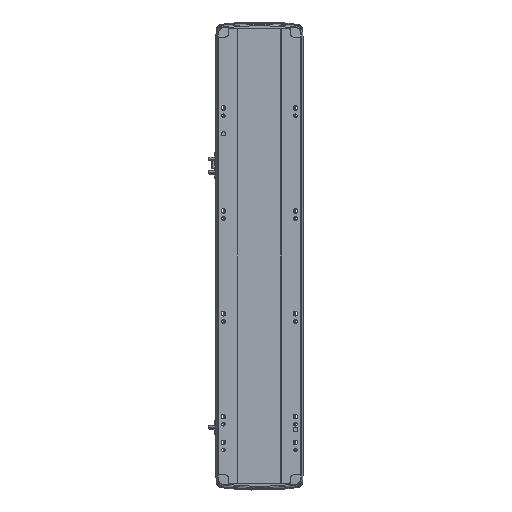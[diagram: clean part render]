
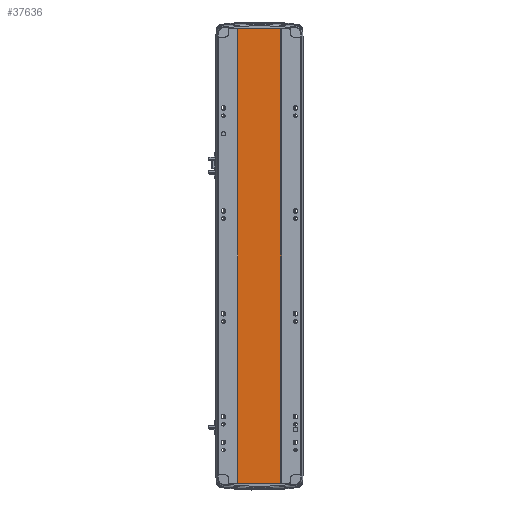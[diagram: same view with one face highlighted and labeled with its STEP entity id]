
A CAD part, front view. The second image highlights one B-rep face of the part: STEP entity #37636.
In plain terms, the highlighted planar face has unit normal (0, -1, 0).
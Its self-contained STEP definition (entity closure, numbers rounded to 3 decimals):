
#93 = VECTOR ( 'NONE', #1583, 1000. ) ;
#1084 = LINE ( 'NONE', #32916, #93 ) ;
#1583 = DIRECTION ( 'NONE',  ( 1., 0., 0. ) ) ;
#2703 = VERTEX_POINT ( 'NONE', #5319 ) ;
#3192 = CARTESIAN_POINT ( 'NONE',  ( 0., 0.999, 884.5 ) ) ;
#3882 = LINE ( 'NONE', #23552, #38258 ) ;
#5319 = CARTESIAN_POINT ( 'NONE',  ( 41.793, 0.998, 884.5 ) ) ;
#6553 = EDGE_CURVE ( 'NONE', #27520, #2703, #16117, .T. ) ;
#6586 = PLANE ( 'NONE',  #13399 ) ;
#6716 = DIRECTION ( 'NONE',  ( 0., 1., 0. ) ) ;
#11423 = FACE_OUTER_BOUND ( 'NONE', #14752, .T. ) ;
#11874 = LINE ( 'NONE', #23181, #32065 ) ;
#12629 = EDGE_CURVE ( 'NONE', #39971, #30636, #1084, .T. ) ;
#12779 = EDGE_CURVE ( 'NONE', #2703, #30636, #11874, .T. ) ;
#12914 = ORIENTED_EDGE ( 'NONE', *, *, #12629, .T. ) ;
#13399 = AXIS2_PLACEMENT_3D ( 'NONE', #3192, #6716, #34368 ) ;
#14619 = VECTOR ( 'NONE', #40153, 1000. ) ;
#14647 = EDGE_CURVE ( 'NONE', #27520, #39971, #3882, .T. ) ;
#14752 = EDGE_LOOP ( 'NONE', ( #12914, #28816, #15232, #21935 ) ) ;
#15232 = ORIENTED_EDGE ( 'NONE', *, *, #6553, .F. ) ;
#16117 = LINE ( 'NONE', #39502, #14619 ) ;
#21935 = ORIENTED_EDGE ( 'NONE', *, *, #14647, .T. ) ;
#23181 = CARTESIAN_POINT ( 'NONE',  ( 41.793, 0.998, 884.5 ) ) ;
#23354 = CARTESIAN_POINT ( 'NONE',  ( -41.791, 1., 884.5 ) ) ;
#23552 = CARTESIAN_POINT ( 'NONE',  ( -41.791, 1., 884.5 ) ) ;
#27520 = VERTEX_POINT ( 'NONE', #23354 ) ;
#28816 = ORIENTED_EDGE ( 'NONE', *, *, #12779, .F. ) ;
#30115 = CARTESIAN_POINT ( 'NONE',  ( -41.791, 1., 0. ) ) ;
#30636 = VERTEX_POINT ( 'NONE', #40535 ) ;
#32065 = VECTOR ( 'NONE', #38970, 1000. ) ;
#32916 = CARTESIAN_POINT ( 'NONE',  ( 0., 0.999, 0. ) ) ;
#33840 = DIRECTION ( 'NONE',  ( 0., 0., -1. ) ) ;
#34368 = DIRECTION ( 'NONE',  ( -1., 0., 0. ) ) ;
#37636 = ADVANCED_FACE ( 'NONE', ( #11423 ), #6586, .F. ) ;
#38258 = VECTOR ( 'NONE', #33840, 1000. ) ;
#38970 = DIRECTION ( 'NONE',  ( 0., 0., -1. ) ) ;
#39502 = CARTESIAN_POINT ( 'NONE',  ( 0., 0.999, 884.5 ) ) ;
#39971 = VERTEX_POINT ( 'NONE', #30115 ) ;
#40153 = DIRECTION ( 'NONE',  ( 1., 0., 0. ) ) ;
#40535 = CARTESIAN_POINT ( 'NONE',  ( 41.793, 0.998, 0. ) ) ;
